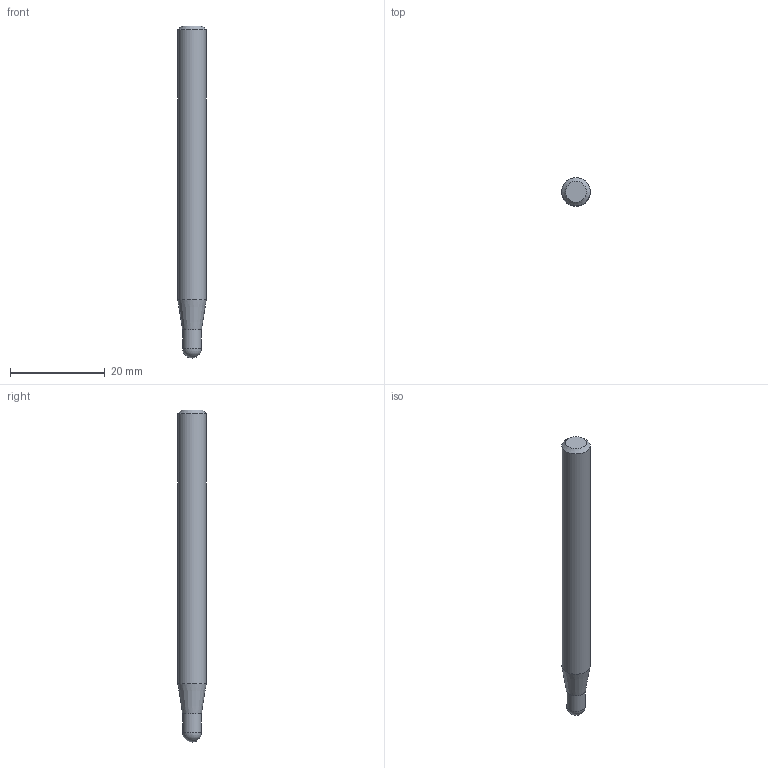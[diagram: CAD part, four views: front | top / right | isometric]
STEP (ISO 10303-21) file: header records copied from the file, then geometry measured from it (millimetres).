
FILE_DESCRIPTION((''),'2;1');
FILE_NAME('C:\Users\nsx150\AppData\Local\Temp\Mastercam 2021\J4S5TCIUH2\TEMP.step','2022-01-25T17:53:53',(''),(''),'STEP Write','Mastercam 2021 ... CNC Software, Inc.','');
FILE_SCHEMA(('AUTOMOTIVE_DESIGN'));
Length unit declared in the file: millimetre
Products named in the file (1): None
Bounding box: 6 x 6 x 70 mm (x, y, z)
Volume: 1818.2 mm3; surface area: 1306.9 mm2
Topology: 2 solids, 2 shells, 8 faces, 12 edges, 7 vertices
Faces by surface type: plane 3, cylinder 2, cone 2, sphere 1
Full cylindrical faces by diameter (mm): 4 x1, 6 x1
Entity records: 190 total; most frequent: DIRECTION 32, CARTESIAN_POINT 22, AXIS2_PLACEMENT_3D 16, ORIENTED_EDGE 12, EDGE_LOOP 12, STYLED_ITEM 11, ADVANCED_FACE 8, VERTEX_POINT 6
